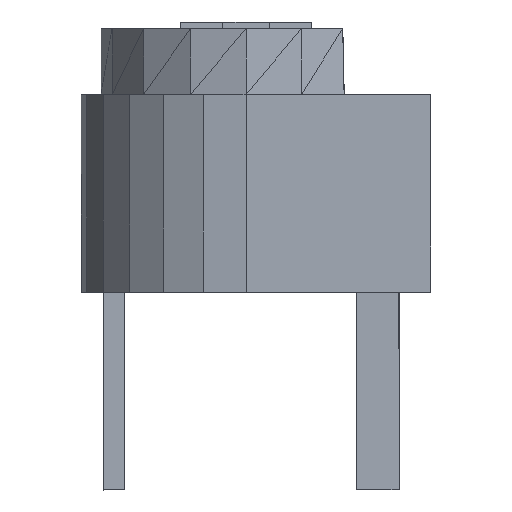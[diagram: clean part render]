
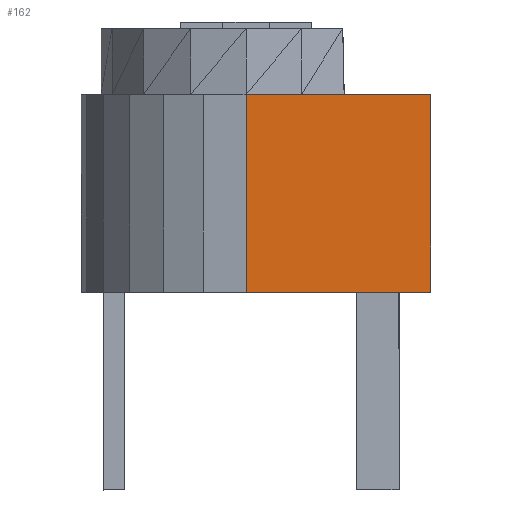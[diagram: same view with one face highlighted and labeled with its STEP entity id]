
A CAD part, front view. The second image highlights one B-rep face of the part: STEP entity #162.
In plain terms, the highlighted planar face has unit normal (0, -1, 0).
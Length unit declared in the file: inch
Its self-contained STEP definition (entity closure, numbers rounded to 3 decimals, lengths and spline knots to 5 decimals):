
#68=CARTESIAN_POINT('',(0.13996,-0.12502,0.05006));
#69=VERTEX_POINT('',#68);
#84=CARTESIAN_POINT('',(0.13993,-0.12499,0.20006));
#85=VERTEX_POINT('',#84);
#92=CARTESIAN_POINT('',(0.13996,-0.12502,0.05006));
#93=DIRECTION('',(0.,0.,1.));
#94=VECTOR('',#93,0.15);
#95=LINE('',#92,#94);
#96=EDGE_CURVE('',#69,#85,#95,.T.);
#132=CARTESIAN_POINT('',(0.13996,-0.12502,0.05006));
#133=DIRECTION('',(0.,-1.,0.));
#134=DIRECTION('',(1.,0.,0.));
#135=AXIS2_PLACEMENT_3D('',#132,#133,#134);
#136=PLANE('',#135);
#137=CARTESIAN_POINT('',(-0.00004,-0.12499,0.05003));
#138=VERTEX_POINT('',#137);
#139=CARTESIAN_POINT('',(-0.00004,-0.12499,0.05003));
#140=DIRECTION('',(1.,0.,0.));
#141=VECTOR('',#140,0.14);
#142=LINE('',#139,#141);
#143=EDGE_CURVE('',#138,#69,#142,.T.);
#144=ORIENTED_EDGE('',*,*,#143,.T.);
#145=ORIENTED_EDGE('',*,*,#96,.T.);
#146=CARTESIAN_POINT('',(-0.00007,-0.12495,0.20003));
#147=VERTEX_POINT('',#146);
#148=CARTESIAN_POINT('',(-0.00007,-0.12495,0.20003));
#149=DIRECTION('',(1.,0.,0.));
#150=VECTOR('',#149,0.14);
#151=LINE('',#148,#150);
#152=EDGE_CURVE('',#147,#85,#151,.T.);
#153=ORIENTED_EDGE('',*,*,#152,.F.);
#154=CARTESIAN_POINT('',(-0.00004,-0.12499,0.05003));
#155=DIRECTION('',(0.,0.,1.));
#156=VECTOR('',#155,0.15);
#157=LINE('',#154,#156);
#158=EDGE_CURVE('',#138,#147,#157,.T.);
#159=ORIENTED_EDGE('',*,*,#158,.F.);
#160=EDGE_LOOP('',(#144,#145,#153,#159));
#161=FACE_BOUND('',#160,.T.);
#162=ADVANCED_FACE('',(#161),#136,.T.);
